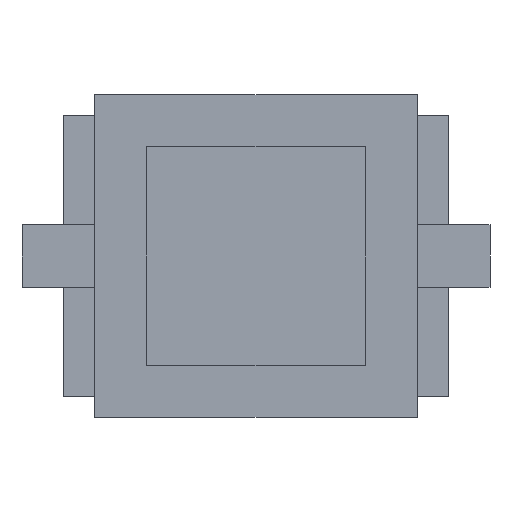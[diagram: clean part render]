
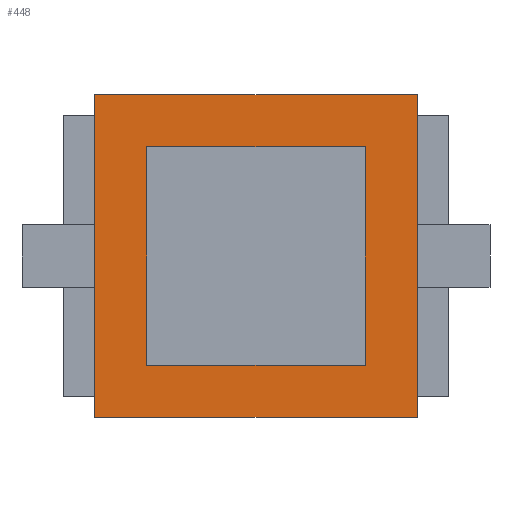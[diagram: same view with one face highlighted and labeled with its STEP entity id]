
A CAD part, front view. The second image highlights one B-rep face of the part: STEP entity #448.
In plain terms, the highlighted planar face has unit normal (0, -1, 0).
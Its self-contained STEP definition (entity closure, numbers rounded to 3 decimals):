
#10 = VECTOR ( 'NONE', #229, 1000. ) ;
#27 = CARTESIAN_POINT ( 'NONE',  ( 77.5, 0., 77.5 ) ) ;
#37 = DIRECTION ( 'NONE',  ( 1., 0., 0. ) ) ;
#43 = DIRECTION ( 'NONE',  ( -1., 0., 0. ) ) ;
#130 = VERTEX_POINT ( 'NONE', #298 ) ;
#212 = VECTOR ( 'NONE', #1714, 1000. ) ;
#229 = DIRECTION ( 'NONE',  ( -1., 0., 0. ) ) ;
#233 = CARTESIAN_POINT ( 'NONE',  ( -52.5, 0., 52.5 ) ) ;
#298 = CARTESIAN_POINT ( 'NONE',  ( -77.5, 0., 77.5 ) ) ;
#305 = VECTOR ( 'NONE', #583, 1000. ) ;
#315 = ORIENTED_EDGE ( 'NONE', *, *, #670, .T. ) ;
#343 = VERTEX_POINT ( 'NONE', #1765 ) ;
#366 = LINE ( 'NONE', #989, #1444 ) ;
#381 = EDGE_CURVE ( 'NONE', #130, #1174, #1757, .T. ) ;
#382 = ORIENTED_EDGE ( 'NONE', *, *, #1694, .T. ) ;
#394 = VERTEX_POINT ( 'NONE', #777 ) ;
#416 = LINE ( 'NONE', #620, #10 ) ;
#442 = ORIENTED_EDGE ( 'NONE', *, *, #696, .F. ) ;
#448 = ADVANCED_FACE ( 'NONE', ( #1784, #1453 ), #1531, .T. ) ;
#452 = EDGE_LOOP ( 'NONE', ( #1414, #510, #454, #442 ) ) ;
#454 = ORIENTED_EDGE ( 'NONE', *, *, #1487, .F. ) ;
#462 = LINE ( 'NONE', #565, #1206 ) ;
#510 = ORIENTED_EDGE ( 'NONE', *, *, #1152, .F. ) ;
#532 = CARTESIAN_POINT ( 'NONE',  ( -77.5, 0., 77.5 ) ) ;
#548 = CARTESIAN_POINT ( 'NONE',  ( 52.5, 0., -52.5 ) ) ;
#565 = CARTESIAN_POINT ( 'NONE',  ( -52.5, 0., -52.5 ) ) ;
#571 = LINE ( 'NONE', #233, #898 ) ;
#583 = DIRECTION ( 'NONE',  ( 0., 0., -1. ) ) ;
#595 = ORIENTED_EDGE ( 'NONE', *, *, #381, .T. ) ;
#606 = VECTOR ( 'NONE', #37, 1000. ) ;
#620 = CARTESIAN_POINT ( 'NONE',  ( 52.5, 0., 52.5 ) ) ;
#629 = DIRECTION ( 'NONE',  ( 1., 0., 0. ) ) ;
#644 = CARTESIAN_POINT ( 'NONE',  ( -77.5, 0., -77.5 ) ) ;
#670 = EDGE_CURVE ( 'NONE', #1379, #130, #1299, .T. ) ;
#695 = DIRECTION ( 'NONE',  ( 0., -1., 0. ) ) ;
#696 = EDGE_CURVE ( 'NONE', #394, #1110, #571, .T. ) ;
#777 = CARTESIAN_POINT ( 'NONE',  ( -52.5, 0., 52.5 ) ) ;
#796 = EDGE_LOOP ( 'NONE', ( #901, #382, #315, #595 ) ) ;
#868 = CARTESIAN_POINT ( 'NONE',  ( 52.5, 0., 52.5 ) ) ;
#893 = LINE ( 'NONE', #644, #606 ) ;
#898 = VECTOR ( 'NONE', #1641, 1000. ) ;
#901 = ORIENTED_EDGE ( 'NONE', *, *, #925, .T. ) ;
#925 = EDGE_CURVE ( 'NONE', #1174, #343, #893, .T. ) ;
#938 = VECTOR ( 'NONE', #43, 1000. ) ;
#947 = DIRECTION ( 'NONE',  ( 0., 0., -1. ) ) ;
#964 = EDGE_CURVE ( 'NONE', #1210, #394, #416, .T. ) ;
#970 = LINE ( 'NONE', #1270, #212 ) ;
#989 = CARTESIAN_POINT ( 'NONE',  ( 52.5, 0., -52.5 ) ) ;
#1110 = VERTEX_POINT ( 'NONE', #1725 ) ;
#1152 = EDGE_CURVE ( 'NONE', #1288, #1210, #366, .T. ) ;
#1174 = VERTEX_POINT ( 'NONE', #1625 ) ;
#1183 = AXIS2_PLACEMENT_3D ( 'NONE', #1737, #695, #947 ) ;
#1206 = VECTOR ( 'NONE', #629, 1000. ) ;
#1210 = VERTEX_POINT ( 'NONE', #868 ) ;
#1270 = CARTESIAN_POINT ( 'NONE',  ( 77.5, 0., -77.5 ) ) ;
#1288 = VERTEX_POINT ( 'NONE', #548 ) ;
#1299 = LINE ( 'NONE', #1521, #938 ) ;
#1379 = VERTEX_POINT ( 'NONE', #27 ) ;
#1380 = DIRECTION ( 'NONE',  ( 0., 0., 1. ) ) ;
#1414 = ORIENTED_EDGE ( 'NONE', *, *, #964, .F. ) ;
#1444 = VECTOR ( 'NONE', #1380, 1000. ) ;
#1453 = FACE_OUTER_BOUND ( 'NONE', #796, .T. ) ;
#1487 = EDGE_CURVE ( 'NONE', #1110, #1288, #462, .T. ) ;
#1521 = CARTESIAN_POINT ( 'NONE',  ( 77.5, 0., 77.5 ) ) ;
#1531 = PLANE ( 'NONE',  #1183 ) ;
#1625 = CARTESIAN_POINT ( 'NONE',  ( -77.5, 0., -77.5 ) ) ;
#1641 = DIRECTION ( 'NONE',  ( 0., 0., -1. ) ) ;
#1694 = EDGE_CURVE ( 'NONE', #343, #1379, #970, .T. ) ;
#1714 = DIRECTION ( 'NONE',  ( 0., 0., 1. ) ) ;
#1725 = CARTESIAN_POINT ( 'NONE',  ( -52.5, 0., -52.5 ) ) ;
#1737 = CARTESIAN_POINT ( 'NONE',  ( 0., 0., 0. ) ) ;
#1757 = LINE ( 'NONE', #532, #305 ) ;
#1765 = CARTESIAN_POINT ( 'NONE',  ( 77.5, 0., -77.5 ) ) ;
#1784 = FACE_BOUND ( 'NONE', #452, .T. ) ;
